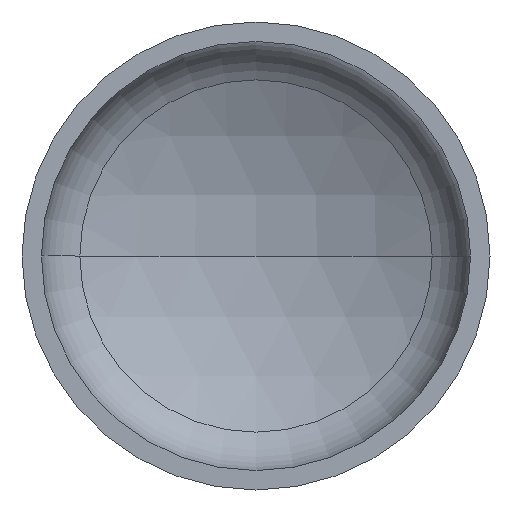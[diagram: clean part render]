
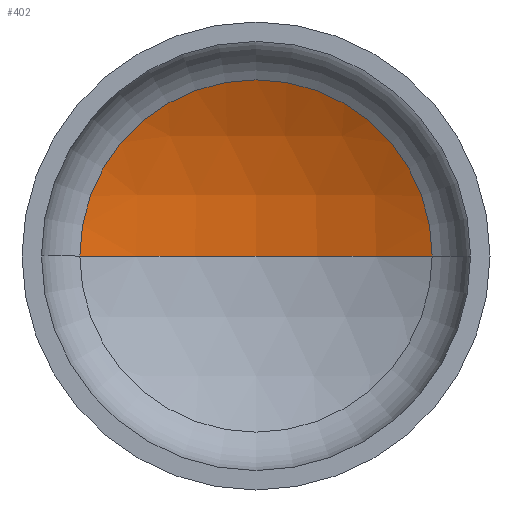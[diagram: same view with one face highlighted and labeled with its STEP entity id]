
A CAD part, front view. The second image highlights one B-rep face of the part: STEP entity #402.
In plain terms, the highlighted spherical face has radius 135 mm.
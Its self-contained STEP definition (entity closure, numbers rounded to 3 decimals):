
#36 = CARTESIAN_POINT ( 'NONE',  ( 0., -71.253, 0. ) ) ;
#63 = AXIS2_PLACEMENT_3D ( 'NONE', #36, #222, #107 ) ;
#79 = CIRCLE ( 'NONE', #216, 135. ) ;
#87 = CARTESIAN_POINT ( 'NONE',  ( 0., 63.747, 0. ) ) ;
#94 = DIRECTION ( 'NONE',  ( 0., -1., 0. ) ) ;
#104 = SPHERICAL_SURFACE ( 'NONE', #63, 135. ) ;
#107 = DIRECTION ( 'NONE',  ( -1., 0., 0. ) ) ;
#123 = DIRECTION ( 'NONE',  ( 1., 0., 0. ) ) ;
#142 = DIRECTION ( 'NONE',  ( 0., 0., 1. ) ) ;
#145 = DIRECTION ( 'NONE',  ( 1., 0., 0. ) ) ;
#149 = CARTESIAN_POINT ( 'NONE',  ( 0., -71.253, 0. ) ) ;
#158 = ORIENTED_EDGE ( 'NONE', *, *, #296, .F. ) ;
#163 = DIRECTION ( 'NONE',  ( -1., 0., 0. ) ) ;
#199 = CIRCLE ( 'NONE', #271, 63.351 ) ;
#207 = CARTESIAN_POINT ( 'NONE',  ( 63.351, 47.959, 0. ) ) ;
#211 = AXIS2_PLACEMENT_3D ( 'NONE', #149, #142, #145 ) ;
#214 = VERTEX_POINT ( 'NONE', #291 ) ;
#216 = AXIS2_PLACEMENT_3D ( 'NONE', #283, #267, #163 ) ;
#222 = DIRECTION ( 'NONE',  ( 0., 0., -1. ) ) ;
#257 = ORIENTED_EDGE ( 'NONE', *, *, #286, .T. ) ;
#259 = CARTESIAN_POINT ( 'NONE',  ( 0., 47.959, 0. ) ) ;
#267 = DIRECTION ( 'NONE',  ( 0., 0., -1. ) ) ;
#271 = AXIS2_PLACEMENT_3D ( 'NONE', #259, #94, #123 ) ;
#283 = CARTESIAN_POINT ( 'NONE',  ( 0., -71.253, 0. ) ) ;
#286 = EDGE_CURVE ( 'NONE', #323, #214, #199, .T. ) ;
#290 = EDGE_CURVE ( 'NONE', #341, #323, #79, .T. ) ;
#291 = CARTESIAN_POINT ( 'NONE',  ( -63.351, 47.959, 0. ) ) ;
#296 = EDGE_CURVE ( 'NONE', #341, #214, #410, .T. ) ;
#304 = EDGE_LOOP ( 'NONE', ( #158, #353, #257 ) ) ;
#323 = VERTEX_POINT ( 'NONE', #207 ) ;
#341 = VERTEX_POINT ( 'NONE', #87 ) ;
#352 = FACE_OUTER_BOUND ( 'NONE', #304, .T. ) ;
#353 = ORIENTED_EDGE ( 'NONE', *, *, #290, .T. ) ;
#402 = ADVANCED_FACE ( 'NONE', ( #352 ), #104, .F. ) ;
#410 = CIRCLE ( 'NONE', #211, 135. ) ;
